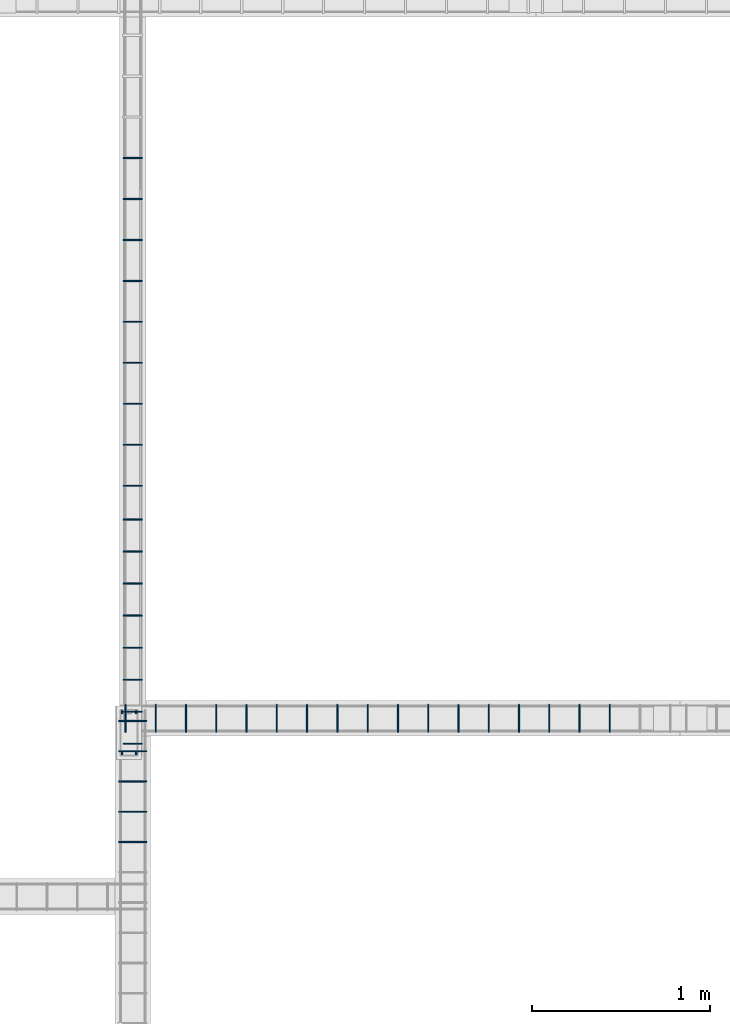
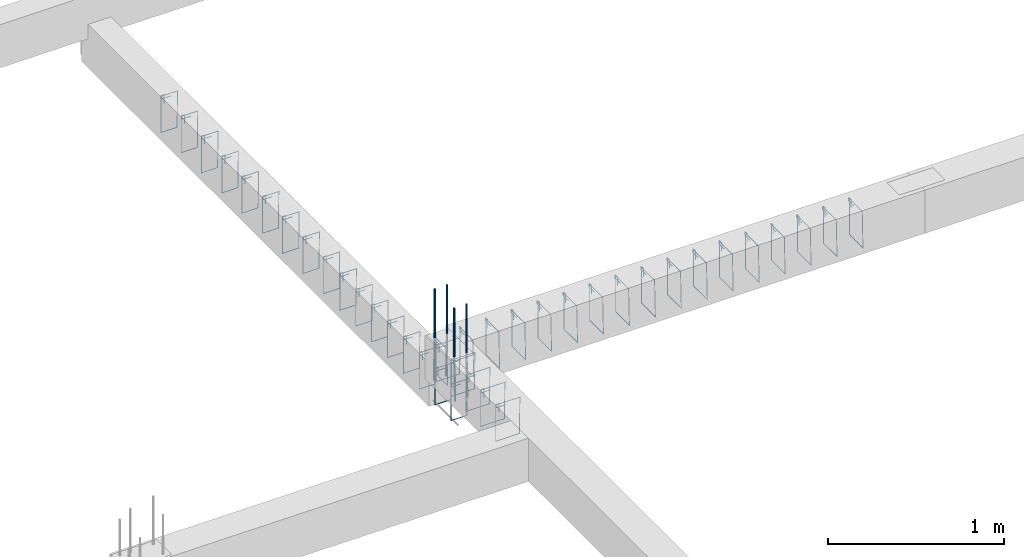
# One storey, part 138 of 150: 43 reinforcing bars.
"""IFC4 building model written with IfcOpenShell, lengths in centimetres."""

from ifc_helpers import new_model, entity, si_unit, derived_unit, frame, origin_with_axes, place, context, project, spatial, source, transform, mapped, element, save


model = new_model("IFC4")

# Units and contexts
model_context = context("Model", 3, precision=1e-05, world=origin_with_axes(), identifier="Body")
ifc_project = project(units=[si_unit("LENGTHUNIT", "METRE", prefix="CENTI"), si_unit("VOLUMEUNIT", "CUBIC_METRE"), si_unit("AREAUNIT", "SQUARE_METRE"), si_unit("POWERUNIT", "WATT"), si_unit("LUMINOUSFLUXUNIT", "LUMEN"), si_unit("ELECTRICCURRENTUNIT", "AMPERE"), si_unit("PRESSUREUNIT", "PASCAL", prefix="KILO"), si_unit("MASSUNIT", "GRAM", prefix="KILO"), si_unit("PLANEANGLEUNIT", "RADIAN"), derived_unit("VOLUMETRICFLOWRATEUNIT", [(si_unit("LENGTHUNIT", "METRE"), 3), (si_unit("TIMEUNIT", "SECOND"), -1)])], contexts=[model_context])

# Site, building, storey
site_placement = place(None, frame((-4000.0, 0.0, 0.0), z_axis=(0.0, 0.0, 1.0), x_axis=(1.0, 0.0, 0.0)))
site = spatial("IfcSite", under=ifc_project, at=site_placement, Name="PADRÃO")
building_placement = place(site_placement, frame((0.0, 0.0, -14.0)))
building = spatial("IfcBuilding", under=site, at=building_placement, Name="CRECHE PRÉ-ESCOLA TIPO 2")
placement = place(building_placement, origin_with_axes())
storey_placement = place(placement, frame((0.0, 0.0, 30.0), z_axis=(0.0, 0.0, 1.0), x_axis=(1.0, 0.0, 0.0)))
storey = spatial("IfcBuildingStorey", under=building, at=storey_placement, Name="VIGA BALDRAME", CompositionType="ELEMENT", Elevation=16.0)

# Reinforcing bars
shared_shape_1 = source(origin_with_axes(), model_context, "Body", "AdvancedSweptSolid", [
    entity("IfcSweptDiskSolid", entity("IfcCompositeCurve", [entity("IfcCompositeCurveSegment", "CONTINUOUS", True, entity("IfcPolyline", [entity("IfcCartesianPoint", [2.0, -6.0, 0.0]), entity("IfcCartesianPoint", [2.0, 0.0, 0.0])])), entity("IfcCompositeCurveSegment", "CONTINUOUS", True, entity("IfcPolyline", [entity("IfcCartesianPoint", [2.0, 0.0, 0.0]), entity("IfcCartesianPoint", [0.0, 0.0, 0.0])])), entity("IfcCompositeCurveSegment", "CONTINUOUS", True, entity("IfcPolyline", [entity("IfcCartesianPoint", [0.0, 0.0, 0.0]), entity("IfcCartesianPoint", [0.0, -25.5, 0.0])])), entity("IfcCompositeCurveSegment", "CONTINUOUS", True, entity("IfcPolyline", [entity("IfcCartesianPoint", [0.0, -25.5, 0.0]), entity("IfcCartesianPoint", [15.5, -25.5, 0.0])])), entity("IfcCompositeCurveSegment", "CONTINUOUS", True, entity("IfcPolyline", [entity("IfcCartesianPoint", [15.5, -25.5, 0.0]), entity("IfcCartesianPoint", [15.5, 0.0, 0.5])])), entity("IfcCompositeCurveSegment", "CONTINUOUS", True, entity("IfcPolyline", [entity("IfcCartesianPoint", [15.5, 0.0, 0.5]), entity("IfcCartesianPoint", [0.0, 0.0, 0.5])])), entity("IfcCompositeCurveSegment", "CONTINUOUS", True, entity("IfcPolyline", [entity("IfcCartesianPoint", [0.0, 0.0, 0.5]), entity("IfcCartesianPoint", [0.0, -2.0, 0.5])])), entity("IfcCompositeCurveSegment", "CONTINUOUS", True, entity("IfcPolyline", [entity("IfcCartesianPoint", [0.0, -2.0, 0.5]), entity("IfcCartesianPoint", [6.0, -2.0, 0.5])]))], False), 0.25),
])
for number, where, z_axis, x_axis, name in (
    (1, (2792.74, 4092.77, -2.25), (-1.0, 0.0, 0.0), (0.0, -1.0, 0.0), "V103 - Estribo"),
    (2, (2775.74, 4092.77, -2.25), (-1.0, 0.0, 0.0), (0.0, -1.0, 0.0), "V103 - Estribo"),
    (3, (2741.74, 4092.77, -2.25), (-1.0, 0.0, 0.0), (0.0, -1.0, 0.0), "V103 - Estribo"),
    (4, (2724.74, 4092.77, -2.25), (-1.0, 0.0, 0.0), (0.0, -1.0, 0.0), "V103 - Estribo"),
    (5, (2707.74, 4092.77, -2.25), (-1.0, 0.0, 0.0), (0.0, -1.0, 0.0), "V103 - Estribo"),
    (6, (2690.74, 4092.77, -2.25), (-1.0, 0.0, 0.0), (0.0, -1.0, 0.0), "V103 - Estribo"),
    (7, (2673.74, 4092.77, -2.25), (-1.0, 0.0, 0.0), (0.0, -1.0, 0.0), "V103 - Estribo"),
    (8, (2656.74, 4092.77, -2.25), (-1.0, 0.0, 0.0), (0.0, -1.0, 0.0), "V103 - Estribo"),
    (9, (2639.74, 4092.77, -2.25), (-1.0, 0.0, 0.0), (0.0, -1.0, 0.0), "V103 - Estribo"),
    (10, (2622.74, 4092.77, -2.25), (-1.0, 0.0, 0.0), (0.0, -1.0, 0.0), "V103 - Estribo"),
    (11, (2605.74, 4092.77, -2.25), (-1.0, 0.0, 0.0), (0.0, -1.0, 0.0), "V103 - Estribo"),
    (12, (2588.74, 4092.77, -2.25), (-1.0, 0.0, 0.0), (0.0, -1.0, 0.0), "V103 - Estribo"),
    (13, (2571.74, 4092.77, -2.25), (-1.0, 0.0, 0.0), (0.0, -1.0, 0.0), "V103 - Estribo"),
    (14, (2537.74, 4092.77, -2.25), (-1.0, 0.0, 0.0), (0.0, -1.0, 0.0), "V103 - Estribo"),
    (15, (2554.74, 4092.77, -2.25), (-1.0, 0.0, 0.0), (0.0, -1.0, 0.0), "V103 - Estribo"),
    (16, (2758.74, 4092.77, -2.25), (-1.0, 0.0, 0.0), (0.0, -1.0, 0.0), "V103 - Estribo"),
    (17, (2520.74, 4092.77, -2.25), (-1.0, 0.0, 0.0), (0.0, -1.0, 0.0), "V103 - Estribo"),
):
    element("IfcReinforcingBar", number, at=place(storey_placement, frame(where, z_axis=z_axis, x_axis=x_axis)), inside=storey, Name=name, BarLength=0.0, CrossSectionArea=1.9634954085e-05, NominalDiameter=0.5, PredefinedType="MAIN", context=model_context, shape_type="MappedRepresentation", body=[
        mapped(shared_shape_1, transform((0.0, 0.0, 0.0), scale=1.0)),
    ])
shared_shape_2 = source(origin_with_axes(), model_context, "Body", "AdvancedSweptSolid", [
    entity("IfcSweptDiskSolid", entity("IfcCompositeCurve", [entity("IfcCompositeCurveSegment", "CONTINUOUS", True, entity("IfcPolyline", [entity("IfcCartesianPoint", [2.0, -6.0, 0.0]), entity("IfcCartesianPoint", [2.0, 0.0, 0.0])])), entity("IfcCompositeCurveSegment", "CONTINUOUS", True, entity("IfcPolyline", [entity("IfcCartesianPoint", [2.0, 0.0, 0.0]), entity("IfcCartesianPoint", [0.0, 0.0, 0.0])])), entity("IfcCompositeCurveSegment", "CONTINUOUS", True, entity("IfcPolyline", [entity("IfcCartesianPoint", [0.0, 0.0, 0.0]), entity("IfcCartesianPoint", [0.0, -25.5, 0.0])])), entity("IfcCompositeCurveSegment", "CONTINUOUS", True, entity("IfcPolyline", [entity("IfcCartesianPoint", [0.0, -25.5, 0.0]), entity("IfcCartesianPoint", [15.5, -25.5, 0.0])])), entity("IfcCompositeCurveSegment", "CONTINUOUS", True, entity("IfcPolyline", [entity("IfcCartesianPoint", [15.5, -25.5, 0.0]), entity("IfcCartesianPoint", [15.5, 0.0, 0.5])])), entity("IfcCompositeCurveSegment", "CONTINUOUS", True, entity("IfcPolyline", [entity("IfcCartesianPoint", [15.5, 0.0, 0.5]), entity("IfcCartesianPoint", [0.0, 0.0, 0.5])])), entity("IfcCompositeCurveSegment", "CONTINUOUS", True, entity("IfcPolyline", [entity("IfcCartesianPoint", [0.0, 0.0, 0.5]), entity("IfcCartesianPoint", [0.0, -2.0, 0.5])])), entity("IfcCompositeCurveSegment", "CONTINUOUS", True, entity("IfcPolyline", [entity("IfcCartesianPoint", [0.0, -2.0, 0.5]), entity("IfcCartesianPoint", [6.0, -2.0, 0.5])]))], False), 0.25),
])
for number, where, z_axis, x_axis, name in (
    (18, (2516.78, 4083.885, -2.25), (0.0, -1.0, 0.0), (1.0, 0.0, 0.0), "V199 - Estribo"),
    (19, (2516.78, 4066.885, -2.25), (0.0, -1.0, 0.0), (1.0, 0.0, 0.0), "V199 - Estribo"),
    (20, (2516.78, 4049.885, -2.25), (0.0, -1.0, 0.0), (1.0, 0.0, 0.0), "V199 - Estribo"),
    (21, (2516.78, 4032.885, -2.25), (0.0, -1.0, 0.0), (1.0, 0.0, 0.0), "V199 - Estribo"),
    (22, (2516.78, 4015.885, -2.25), (0.0, -1.0, 0.0), (1.0, 0.0, 0.0), "V199 - Estribo"),
):
    element("IfcReinforcingBar", number, at=place(storey_placement, frame(where, z_axis=z_axis, x_axis=x_axis)), inside=storey, Name=name, BarLength=0.0, CrossSectionArea=1.9634954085e-05, NominalDiameter=0.5, PredefinedType="MAIN", context=model_context, shape_type="MappedRepresentation", body=[
        mapped(shared_shape_2, transform((0.0, 0.0, 0.0), scale=1.0)),
    ])
shared_shape_3 = source(origin_with_axes(), model_context, "Body", "AdvancedSweptSolid", [
    entity("IfcSweptDiskSolid", entity("IfcCompositeCurve", [entity("IfcCompositeCurveSegment", "CONTINUOUS", True, entity("IfcPolyline", [entity("IfcCartesianPoint", [2.0, -6.0, 0.0]), entity("IfcCartesianPoint", [2.0, 0.0, 0.0])])), entity("IfcCompositeCurveSegment", "CONTINUOUS", True, entity("IfcPolyline", [entity("IfcCartesianPoint", [2.0, 0.0, 0.0]), entity("IfcCartesianPoint", [0.0, 0.0, 0.0])])), entity("IfcCompositeCurveSegment", "CONTINUOUS", True, entity("IfcPolyline", [entity("IfcCartesianPoint", [0.0, 0.0, 0.0]), entity("IfcCartesianPoint", [0.0, -25.5, 0.0])])), entity("IfcCompositeCurveSegment", "CONTINUOUS", True, entity("IfcPolyline", [entity("IfcCartesianPoint", [0.0, -25.5, 0.0]), entity("IfcCartesianPoint", [10.5, -25.5, 0.0])])), entity("IfcCompositeCurveSegment", "CONTINUOUS", True, entity("IfcPolyline", [entity("IfcCartesianPoint", [10.5, -25.5, 0.0]), entity("IfcCartesianPoint", [10.5, 0.0, 0.5])])), entity("IfcCompositeCurveSegment", "CONTINUOUS", True, entity("IfcPolyline", [entity("IfcCartesianPoint", [10.5, 0.0, 0.5]), entity("IfcCartesianPoint", [0.0, 0.0, 0.5])])), entity("IfcCompositeCurveSegment", "CONTINUOUS", True, entity("IfcPolyline", [entity("IfcCartesianPoint", [0.0, 0.0, 0.5]), entity("IfcCartesianPoint", [0.0, -2.0, 0.5])])), entity("IfcCompositeCurveSegment", "CONTINUOUS", True, entity("IfcPolyline", [entity("IfcCartesianPoint", [0.0, -2.0, 0.5]), entity("IfcCartesianPoint", [6.0, -2.0, 0.5])]))], False), 0.25),
])
for number, where, z_axis, x_axis, name in (
    (23, (2519.28, 4179.02, -22.25), (0.0, -1.0, 0.0), (1.0, 0.0, 0.0), "V200 - Estribo"),
    (24, (2519.28, 4125.02, -22.25), (0.0, -1.0, 0.0), (1.0, 0.0, 0.0), "V200 - Estribo"),
    (25, (2519.28, 4107.02, -22.25), (0.0, -1.0, 0.0), (1.0, 0.0, 0.0), "V200 - Estribo"),
    (26, (2519.28, 4089.02, -22.25), (0.0, -1.0, 0.0), (1.0, 0.0, 0.0), "V200 - Estribo"),
    (27, (2519.28, 4071.02, -22.25), (0.0, -1.0, 0.0), (1.0, 0.0, 0.0), "V200 - Estribo"),
    (28, (2519.28, 4161.02, -22.25), (0.0, -1.0, 0.0), (1.0, 0.0, 0.0), "V200 - Estribo"),
    (29, (2519.28, 4143.02, -22.25), (0.0, -1.0, 0.0), (1.0, 0.0, 0.0), "V200 - Estribo"),
    (30, (2519.28, 4197.02, -22.25), (0.0, -1.0, 0.0), (1.0, 0.0, 0.0), "V200 - Estribo"),
):
    element("IfcReinforcingBar", number, at=place(storey_placement, frame(where, z_axis=z_axis, x_axis=x_axis)), inside=storey, Name=name, BarLength=0.0, CrossSectionArea=1.9634954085e-05, NominalDiameter=0.5, PredefinedType="MAIN", context=model_context, shape_type="MappedRepresentation", body=[
        mapped(shared_shape_3, transform((0.0, 0.0, 0.0), scale=1.0)),
    ])
shared_shape_4 = source(origin_with_axes(), model_context, "Body", "AdvancedSweptSolid", [
    entity("IfcSweptDiskSolid", entity("IfcCompositeCurve", [entity("IfcCompositeCurveSegment", "CONTINUOUS", True, entity("IfcPolyline", [entity("IfcCartesianPoint", [2.0, -6.0, 0.0]), entity("IfcCartesianPoint", [2.0, 0.0, 0.0])])), entity("IfcCompositeCurveSegment", "CONTINUOUS", True, entity("IfcPolyline", [entity("IfcCartesianPoint", [2.0, 0.0, 0.0]), entity("IfcCartesianPoint", [0.0, 0.0, 0.0])])), entity("IfcCompositeCurveSegment", "CONTINUOUS", True, entity("IfcPolyline", [entity("IfcCartesianPoint", [0.0, 0.0, 0.0]), entity("IfcCartesianPoint", [0.0, -25.5, 0.0])])), entity("IfcCompositeCurveSegment", "CONTINUOUS", True, entity("IfcPolyline", [entity("IfcCartesianPoint", [0.0, -25.5, 0.0]), entity("IfcCartesianPoint", [10.5, -25.5, 0.0])])), entity("IfcCompositeCurveSegment", "CONTINUOUS", True, entity("IfcPolyline", [entity("IfcCartesianPoint", [10.5, -25.5, 0.0]), entity("IfcCartesianPoint", [10.5, 0.0, 0.5])])), entity("IfcCompositeCurveSegment", "CONTINUOUS", True, entity("IfcPolyline", [entity("IfcCartesianPoint", [10.5, 0.0, 0.5]), entity("IfcCartesianPoint", [0.0, 0.0, 0.5])])), entity("IfcCompositeCurveSegment", "CONTINUOUS", True, entity("IfcPolyline", [entity("IfcCartesianPoint", [0.0, 0.0, 0.5]), entity("IfcCartesianPoint", [0.0, -2.0, 0.5])])), entity("IfcCompositeCurveSegment", "CONTINUOUS", True, entity("IfcPolyline", [entity("IfcCartesianPoint", [0.0, -2.0, 0.5]), entity("IfcCartesianPoint", [6.0, -2.0, 0.5])]))], False), 0.25),
])
for number, where, z_axis, x_axis, name in (
    (31, (2519.28, 4216.01, -22.25), (0.0, -1.0, 0.0), (1.0, 0.0, 0.0), "V200 - Estribo"),
    (32, (2519.28, 4239.01, -22.25), (0.0, -1.0, 0.0), (1.0, 0.0, 0.0), "V200 - Estribo"),
    (33, (2519.28, 4262.01, -22.25), (0.0, -1.0, 0.0), (1.0, 0.0, 0.0), "V200 - Estribo"),
    (34, (2519.28, 4308.01, -22.25), (0.0, -1.0, 0.0), (1.0, 0.0, 0.0), "V200 - Estribo"),
    (35, (2519.28, 4331.01, -22.25), (0.0, -1.0, 0.0), (1.0, 0.0, 0.0), "V200 - Estribo"),
    (36, (2519.28, 4354.01, -22.25), (0.0, -1.0, 0.0), (1.0, 0.0, 0.0), "V200 - Estribo"),
    (37, (2519.28, 4377.01, -22.25), (0.0, -1.0, 0.0), (1.0, 0.0, 0.0), "V200 - Estribo"),
    (38, (2519.28, 4400.01, -22.25), (0.0, -1.0, 0.0), (1.0, 0.0, 0.0), "V200 - Estribo"),
    (39, (2519.28, 4285.01, -22.25), (0.0, -1.0, 0.0), (1.0, 0.0, 0.0), "V200 - Estribo"),
):
    element("IfcReinforcingBar", number, at=place(storey_placement, frame(where, z_axis=z_axis, x_axis=x_axis)), inside=storey, Name=name, BarLength=0.0, CrossSectionArea=1.9634954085e-05, NominalDiameter=0.5, PredefinedType="MAIN", context=model_context, shape_type="MappedRepresentation", body=[
        mapped(shared_shape_4, transform((0.0, 0.0, 0.0), scale=1.0)),
    ])
reinforcing_bar_1_placement = place(storey_placement, frame((2518.5, 4088.51986122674, 33.3573001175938), z_axis=(0.0, 0.0, 1.0), x_axis=(1.0, 0.0, 0.0)))
element("IfcReinforcingBar", 40, at=reinforcing_bar_1_placement, inside=storey, Name="P20 - Longitudinal", BarLength=0.0, CrossSectionArea=7.853981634e-05, NominalDiameter=1.0, PredefinedType="MAIN", context=model_context, shape_type="AdvancedSweptSolid", body=[
    entity("IfcSweptDiskSolid", entity("IfcCompositeCurve", [entity("IfcCompositeCurveSegment", "CONTINUOUS", True, entity("IfcPolyline", [entity("IfcCartesianPoint", [0.0, 0.500138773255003, -63.3573001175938]), entity("IfcCartesianPoint", [0.0, -0.499861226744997, -33.3573001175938])])), entity("IfcCompositeCurveSegment", "CONTINUOUS", True, entity("IfcPolyline", [entity("IfcCartesianPoint", [0.0, -0.499861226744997, -33.3573001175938]), entity("IfcCartesianPoint", [0.0, -0.499861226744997, 0.0])]))], False), 0.5),
])
for number, where, z_axis, x_axis, name in (
    (41, (2518.5, 4065.52013877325, 33.3573001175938), (0.0, 0.0, 1.0), (1.0, 0.0, 0.0), "P20 - Longitudinal"),
    (42, (2526.5, 4065.52013877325, 33.3573001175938), (0.0, 0.0, 1.0), (1.0, 0.0, 0.0), "P20 - Longitudinal"),
):
    element("IfcReinforcingBar", number, at=place(storey_placement, frame(where, z_axis=z_axis, x_axis=x_axis)), inside=storey, Name=name, BarLength=0.0, CrossSectionArea=7.853981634e-05, NominalDiameter=1.0, PredefinedType="MAIN", context=model_context, shape_type="AdvancedSweptSolid", body=[
        entity("IfcSweptDiskSolid", entity("IfcCompositeCurve", [entity("IfcCompositeCurveSegment", "CONTINUOUS", True, entity("IfcPolyline", [entity("IfcCartesianPoint", [0.0, -0.500138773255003, -63.3573001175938]), entity("IfcCartesianPoint", [0.0, 0.499861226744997, -33.3573001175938])])), entity("IfcCompositeCurveSegment", "CONTINUOUS", True, entity("IfcPolyline", [entity("IfcCartesianPoint", [0.0, 0.499861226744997, -33.3573001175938]), entity("IfcCartesianPoint", [0.0, 0.499861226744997, 0.0])]))], False), 0.5),
    ])
reinforcing_bar_2_placement = place(storey_placement, frame((2526.5, 4088.51986122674, 33.3573001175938), z_axis=(0.0, 0.0, 1.0), x_axis=(1.0, 0.0, 0.0)))
element("IfcReinforcingBar", 43, at=reinforcing_bar_2_placement, inside=storey, Name="P20 - Longitudinal", BarLength=0.0, CrossSectionArea=7.853981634e-05, NominalDiameter=1.0, PredefinedType="MAIN", context=model_context, shape_type="AdvancedSweptSolid", body=[
    entity("IfcSweptDiskSolid", entity("IfcCompositeCurve", [entity("IfcCompositeCurveSegment", "CONTINUOUS", True, entity("IfcPolyline", [entity("IfcCartesianPoint", [0.0, 0.500138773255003, -63.3573001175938]), entity("IfcCartesianPoint", [0.0, -0.499861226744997, -33.3573001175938])])), entity("IfcCompositeCurveSegment", "CONTINUOUS", True, entity("IfcPolyline", [entity("IfcCartesianPoint", [0.0, -0.499861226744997, -33.3573001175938]), entity("IfcCartesianPoint", [0.0, -0.499861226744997, 0.0])]))], False), 0.5),
])

save(model, "model.ifc")
